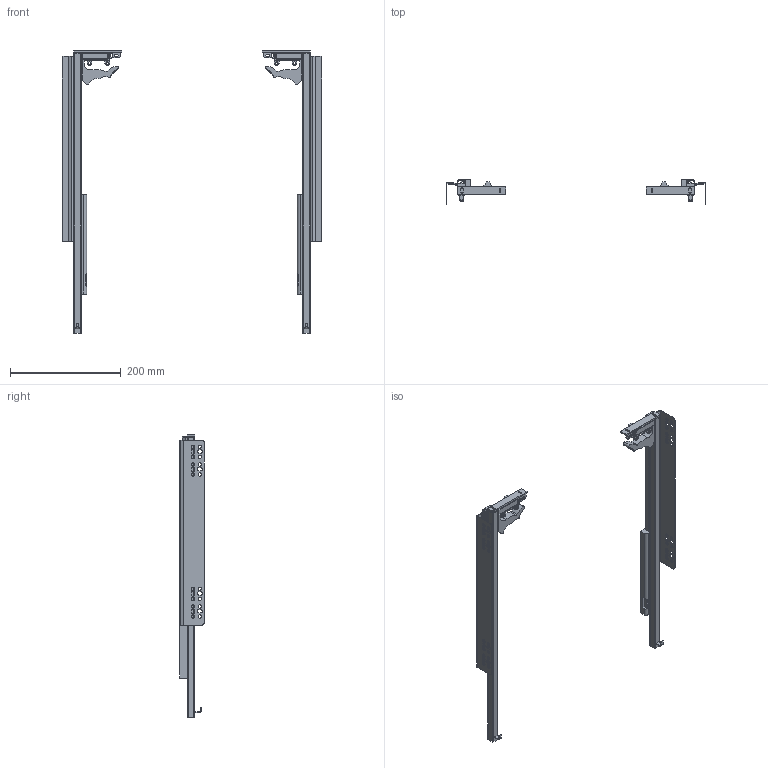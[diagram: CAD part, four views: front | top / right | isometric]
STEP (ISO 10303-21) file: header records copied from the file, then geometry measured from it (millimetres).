
FILE_DESCRIPTION(/* description */ ('Akc'),/* implementation_level */ '2;1');
FILE_NAME(/* name */ 'C:\Users\dmitruk\Documents\WORK\НАПРАВЛЯЮЩИЕ\Скрытого монтажа\Q-Type\Q-Type с замками (16 мм)\Q-Type с замками (16 мм)-500.stp',/* time_stamp */ '2022-04-22T17:47:25+03:00',/* author */ ('dmitruk'),/* organization */ (''),/* preprocessor_version */ 'ST-DEVELOPER v16.5',/* originating_system */ 'Autodesk Inventor 2017',/* authorisation */ '');
FILE_SCHEMA (('AUTOMOTIVE_DESIGN { 1 0 10303 214 3 1 1 }'));
Length unit declared in the file: millimetre
Products named in the file (6): Q-Type с замками 
(16 мм); Q-Type с замками \X2\043E0441
043D043E04320430043D04380435\X0\ L (16 мм); Q-Type с замками \X2\043E0441
043D043E04320430043D04380435\X0\ P (16 мм); Q-Type с замками 
выдвижение P; Крепление QType; Крепление QType P
Assembly tree (6 placements, depth 2):
  Q-Type с замками 
(16 мм)
    Q-Type с замками \X2\043E0441
043D043E04320430043D04380435\X0\ L (16 мм)
    Q-Type с замками 
выдвижение P  x2
    Q-Type с замками \X2\043E0441
043D043E04320430043D04380435\X0\ P (16 мм)
    Крепление QType
    Крепление QType P
Bounding box: 468 x 44 x 510 mm (x, y, z)
Volume: 257001.3 mm3; surface area: 295925.1 mm2
Topology: 16 solids, 16 shells, 578 faces, 1564 edges, 1022 vertices
Faces by surface type: plane 342, cylinder 212, cone 20, bspline 4
Full cylindrical faces by diameter (mm): 4.5 x4, 6 x32
Entity records: 17379 total; most frequent: CARTESIAN_POINT 3013, DIRECTION 2902, ORIENTED_EDGE 2824, EDGE_CURVE 1412, LINE 992, VECTOR 992, AXIS2_PLACEMENT_3D 955, VERTEX_POINT 950
